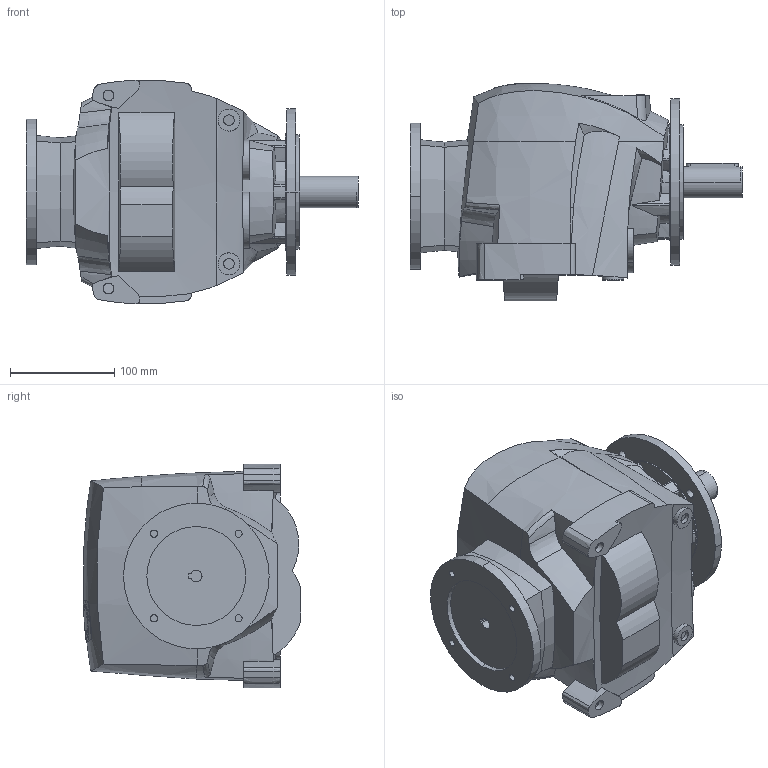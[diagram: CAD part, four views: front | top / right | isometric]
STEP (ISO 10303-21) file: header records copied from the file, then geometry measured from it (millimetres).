
FILE_DESCRIPTION((''),'2;1');
FILE_NAME('R30_160_PAM63','2013-11-24T',('Luca'),(''),'PRO/ENGINEER BY PARAMETRIC TECHNOLOGY CORPORATION, 2008230','PRO/ENGINEER BY PARAMETRIC TECHNOLOGY CORPORATION, 2008230','');
FILE_SCHEMA(('CONFIG_CONTROL_DESIGN'));
Length unit declared in the file: millimetre
Products named in the file (1): R30_160_PAM63
Bounding box: 319 x 209.27 x 214.87 mm (x, y, z)
Volume: 6394047 mm3; surface area: 273342.1 mm2
Topology: 1 solids, 7 shells, 408 faces, 1067 edges, 711 vertices
Faces by surface type: plane 156, cylinder 124, bspline 83, cone 22, extrusion 19, torus 4
Entity records: 16623 total; most frequent: CARTESIAN_POINT 7240, ORIENTED_EDGE 2130, DIRECTION 1577, EDGE_CURVE 1065, VERTEX_POINT 711, AXIS2_PLACEMENT_3D 538, VECTOR 501, LINE 482
